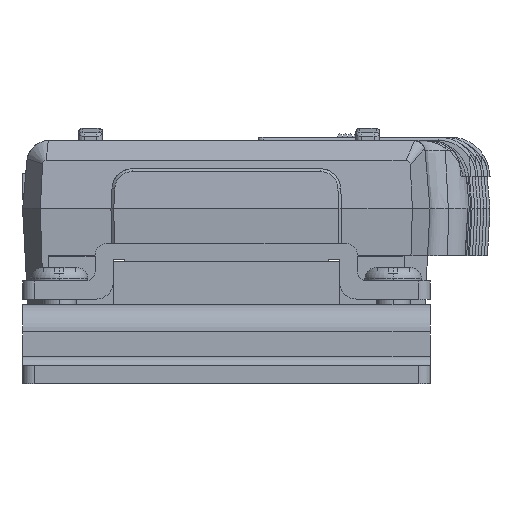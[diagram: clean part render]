
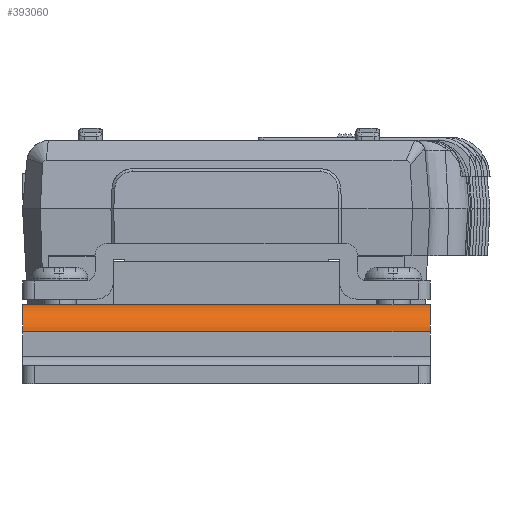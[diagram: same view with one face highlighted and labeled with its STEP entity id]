
A CAD part, left-side view. The second image highlights one B-rep face of the part: STEP entity #393060.
In plain terms, the highlighted cylindrical face has radius 2.4 mm (diameter 4.8 mm), a partial arc.
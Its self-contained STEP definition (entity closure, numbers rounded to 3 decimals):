
#388320=CARTESIAN_POINT('',(139.239,261.109,
104.606));
#388330=VERTEX_POINT('',#388320);
#388360=CARTESIAN_POINT('',(139.239,261.109,
102.206));
#388370=DIRECTION('',(0.,-1.,0.));
#388380=DIRECTION('',(1.,0.,0.));
#388390=AXIS2_PLACEMENT_3D('',#388360,#388370,#388380);
#388400=CIRCLE('',#388390,2.4);
#388410=CARTESIAN_POINT('',(136.839,261.109,
102.206));
#388420=VERTEX_POINT('',#388410);
#388430=EDGE_CURVE('',#388330,#388420,#388400,.T.);
#390230=CARTESIAN_POINT('',(136.839,225.109,
102.206));
#390240=VERTEX_POINT('',#390230);
#390270=CARTESIAN_POINT('',(139.239,225.109,
102.206));
#390280=DIRECTION('',(0.,-1.,0.));
#390290=DIRECTION('',(1.,0.,0.));
#390300=AXIS2_PLACEMENT_3D('',#390270,#390280,#390290);
#390310=CIRCLE('',#390300,2.4);
#390320=CARTESIAN_POINT('',(139.239,225.109,
104.606));
#390330=VERTEX_POINT('',#390320);
#390340=EDGE_CURVE('',#390330,#390240,#390310,.T.);
#392500=CARTESIAN_POINT('',(139.239,261.109,
104.606));
#392510=DIRECTION('',(0.,-1.,0.));
#392520=VECTOR('',#392510,1.);
#392530=LINE('',#392500,#392520);
#392540=EDGE_CURVE('',#388330,#390330,#392530,.T.);
#392900=CARTESIAN_POINT('',(139.239,261.109,
102.206));
#392910=DIRECTION('',(0.,-1.,0.));
#392920=DIRECTION('',(1.,0.,0.));
#392930=AXIS2_PLACEMENT_3D('',#392900,#392910,#392920);
#392940=CYLINDRICAL_SURFACE('',#392930,2.4);
#392950=ORIENTED_EDGE('',*,*,#392540,.F.);
#392960=ORIENTED_EDGE('',*,*,#390340,.F.);
#392970=CARTESIAN_POINT('',(136.839,261.109,
102.206));
#392980=DIRECTION('',(0.,-1.,0.));
#392990=VECTOR('',#392980,1.);
#393000=LINE('',#392970,#392990);
#393010=EDGE_CURVE('',#388420,#390240,#393000,.T.);
#393020=ORIENTED_EDGE('',*,*,#393010,.T.);
#393030=ORIENTED_EDGE('',*,*,#388430,.T.);
#393040=EDGE_LOOP('',(#393030,#393020,#392960,#392950));
#393050=FACE_OUTER_BOUND('',#393040,.T.);
#393060=ADVANCED_FACE('',(#393050),#392940,.T.);
